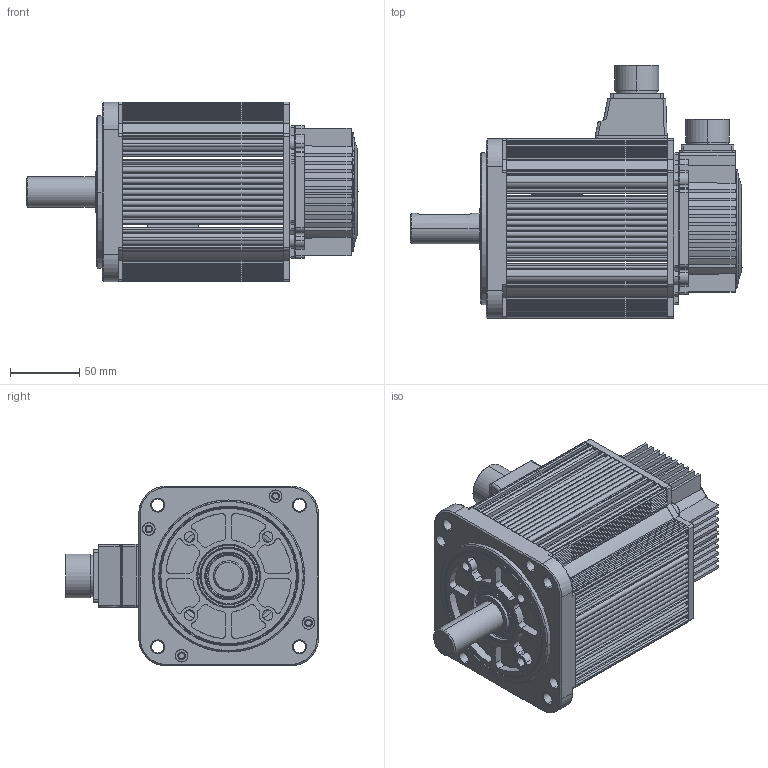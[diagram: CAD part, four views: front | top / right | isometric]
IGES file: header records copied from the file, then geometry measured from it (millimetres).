
Start section: SolidWorks IGES file using analytic representation for surfaces
Global section: file name: E:\est2012\d\17年任务\2017.01.04 外海需求电机3D图升级归档\EMG-15APA22\EMG-15(APB22,ASB22)without holding brake.IGS,15HSolidWorks; native system: 2015; preprocessor: SolidWorks 2015; author: hongyunting; date: 170105.155835; units: millimetre
Bounding box: 240.2 x 183 x 130 mm (x, y, z)
Surface area: 212812.9 mm2 (no closed solid volume)
Topology: 0 solids, 0 shells, 1121 faces, 14446 edges, 14446 vertices
Faces by surface type: revolution 593, bspline 528
